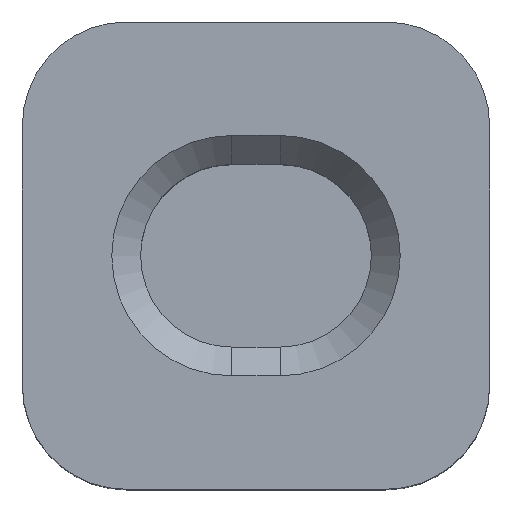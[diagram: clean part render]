
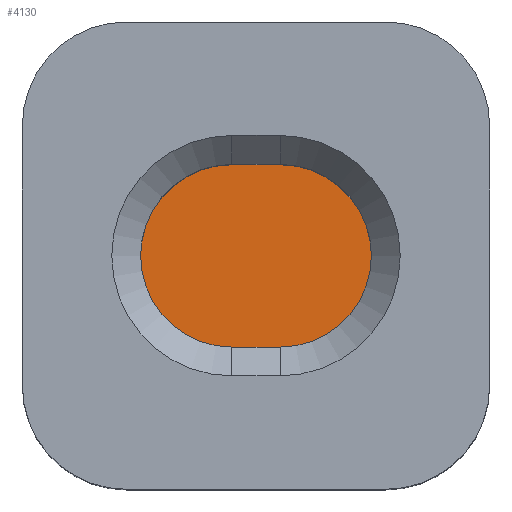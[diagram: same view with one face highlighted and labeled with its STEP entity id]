
A CAD part, top view. The second image highlights one B-rep face of the part: STEP entity #4130.
In plain terms, the highlighted planar face has unit normal (0, 0, 1).
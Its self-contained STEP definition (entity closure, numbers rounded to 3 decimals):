
#2394 = CYLINDRICAL_SURFACE('',#2395,1.9);
#2395 = AXIS2_PLACEMENT_3D('',#2396,#2397,#2398);
#2396 = CARTESIAN_POINT('',(16.,-10.2,283.693));
#2397 = DIRECTION('',(0.,0.,-1.));
#2398 = DIRECTION('',(-1.,0.,0.));
#2467 = PLANE('',#2468);
#2468 = AXIS2_PLACEMENT_3D('',#2469,#2470,#2471);
#2469 = CARTESIAN_POINT('',(16.5,-12.1,283.693));
#2470 = DIRECTION('',(0.,1.,0.));
#2471 = DIRECTION('',(0.,-0.,1.));
#2501 = CYLINDRICAL_SURFACE('',#2502,1.9);
#2502 = AXIS2_PLACEMENT_3D('',#2503,#2504,#2505);
#2503 = CARTESIAN_POINT('',(17.,-10.2,283.693));
#2504 = DIRECTION('',(0.,0.,-1.));
#2505 = DIRECTION('',(-1.,0.,0.));
#2554 = PLANE('',#2555);
#2555 = AXIS2_PLACEMENT_3D('',#2556,#2557,#2558);
#2556 = CARTESIAN_POINT('',(16.5,-8.3,283.693));
#2557 = DIRECTION('',(0.,1.,0.));
#2558 = DIRECTION('',(0.,-0.,1.));
#3875 = EDGE_CURVE('',#3876,#3878,#3880,.T.);
#3876 = VERTEX_POINT('',#3877);
#3877 = CARTESIAN_POINT('',(16.,-12.1,14.3));
#3878 = VERTEX_POINT('',#3879);
#3879 = CARTESIAN_POINT('',(16.,-8.3,14.3));
#3880 = SURFACE_CURVE('',#3881,(#3886,#3893),.PCURVE_S1.);
#3881 = CIRCLE('',#3882,1.9);
#3882 = AXIS2_PLACEMENT_3D('',#3883,#3884,#3885);
#3883 = CARTESIAN_POINT('',(16.,-10.2,14.3));
#3884 = DIRECTION('',(0.,0.,-1.));
#3885 = DIRECTION('',(-1.,0.,0.));
#3886 = PCURVE('',#2394,#3887);
#3887 = DEFINITIONAL_REPRESENTATION('',(#3888),#3892);
#3888 = LINE('',#3889,#3890);
#3889 = CARTESIAN_POINT('',(0.,269.393));
#3890 = VECTOR('',#3891,1.);
#3891 = DIRECTION('',(1.,0.));
#3892 = ( GEOMETRIC_REPRESENTATION_CONTEXT(2) 
PARAMETRIC_REPRESENTATION_CONTEXT() REPRESENTATION_CONTEXT('2D SPACE',''
  ) );
#3893 = PCURVE('',#3894,#3899);
#3894 = PLANE('',#3895);
#3895 = AXIS2_PLACEMENT_3D('',#3896,#3897,#3898);
#3896 = CARTESIAN_POINT('',(1.25,-10.,14.3));
#3897 = DIRECTION('',(0.,0.,-1.));
#3898 = DIRECTION('',(1.,0.,0.));
#3899 = DEFINITIONAL_REPRESENTATION('',(#3900),#3904);
#3900 = CIRCLE('',#3901,1.9);
#3901 = AXIS2_PLACEMENT_2D('',#3902,#3903);
#3902 = CARTESIAN_POINT('',(14.75,0.2));
#3903 = DIRECTION('',(-1.,0.));
#3904 = ( GEOMETRIC_REPRESENTATION_CONTEXT(2) 
PARAMETRIC_REPRESENTATION_CONTEXT() REPRESENTATION_CONTEXT('2D SPACE',''
  ) );
#3955 = VERTEX_POINT('',#3956);
#3956 = CARTESIAN_POINT('',(17.,-12.1,14.3));
#3977 = EDGE_CURVE('',#3955,#3876,#3978,.T.);
#3978 = SURFACE_CURVE('',#3979,(#3983,#3990),.PCURVE_S1.);
#3979 = LINE('',#3980,#3981);
#3980 = CARTESIAN_POINT('',(16.5,-12.1,14.3));
#3981 = VECTOR('',#3982,1.);
#3982 = DIRECTION('',(-1.,0.,0.));
#3983 = PCURVE('',#2467,#3984);
#3984 = DEFINITIONAL_REPRESENTATION('',(#3985),#3989);
#3985 = LINE('',#3986,#3987);
#3986 = CARTESIAN_POINT('',(-269.393,0.));
#3987 = VECTOR('',#3988,1.);
#3988 = DIRECTION('',(0.,-1.));
#3989 = ( GEOMETRIC_REPRESENTATION_CONTEXT(2) 
PARAMETRIC_REPRESENTATION_CONTEXT() REPRESENTATION_CONTEXT('2D SPACE',''
  ) );
#3990 = PCURVE('',#3894,#3991);
#3991 = DEFINITIONAL_REPRESENTATION('',(#3992),#3996);
#3992 = LINE('',#3993,#3994);
#3993 = CARTESIAN_POINT('',(15.25,2.1));
#3994 = VECTOR('',#3995,1.);
#3995 = DIRECTION('',(-1.,0.));
#3996 = ( GEOMETRIC_REPRESENTATION_CONTEXT(2) 
PARAMETRIC_REPRESENTATION_CONTEXT() REPRESENTATION_CONTEXT('2D SPACE',''
  ) );
#4001 = EDGE_CURVE('',#4002,#3955,#4004,.T.);
#4002 = VERTEX_POINT('',#4003);
#4003 = CARTESIAN_POINT('',(17.,-8.3,14.3));
#4004 = SURFACE_CURVE('',#4005,(#4010,#4017),.PCURVE_S1.);
#4005 = CIRCLE('',#4006,1.9);
#4006 = AXIS2_PLACEMENT_3D('',#4007,#4008,#4009);
#4007 = CARTESIAN_POINT('',(17.,-10.2,14.3));
#4008 = DIRECTION('',(0.,0.,-1.));
#4009 = DIRECTION('',(-1.,0.,0.));
#4010 = PCURVE('',#2501,#4011);
#4011 = DEFINITIONAL_REPRESENTATION('',(#4012),#4016);
#4012 = LINE('',#4013,#4014);
#4013 = CARTESIAN_POINT('',(0.,269.393));
#4014 = VECTOR('',#4015,1.);
#4015 = DIRECTION('',(1.,0.));
#4016 = ( GEOMETRIC_REPRESENTATION_CONTEXT(2) 
PARAMETRIC_REPRESENTATION_CONTEXT() REPRESENTATION_CONTEXT('2D SPACE',''
  ) );
#4017 = PCURVE('',#3894,#4018);
#4018 = DEFINITIONAL_REPRESENTATION('',(#4019),#4023);
#4019 = CIRCLE('',#4020,1.9);
#4020 = AXIS2_PLACEMENT_2D('',#4021,#4022);
#4021 = CARTESIAN_POINT('',(15.75,0.2));
#4022 = DIRECTION('',(-1.,0.));
#4023 = ( GEOMETRIC_REPRESENTATION_CONTEXT(2) 
PARAMETRIC_REPRESENTATION_CONTEXT() REPRESENTATION_CONTEXT('2D SPACE',''
  ) );
#4054 = EDGE_CURVE('',#4002,#3878,#4055,.T.);
#4055 = SURFACE_CURVE('',#4056,(#4060,#4067),.PCURVE_S1.);
#4056 = LINE('',#4057,#4058);
#4057 = CARTESIAN_POINT('',(16.5,-8.3,14.3));
#4058 = VECTOR('',#4059,1.);
#4059 = DIRECTION('',(-1.,0.,0.));
#4060 = PCURVE('',#2554,#4061);
#4061 = DEFINITIONAL_REPRESENTATION('',(#4062),#4066);
#4062 = LINE('',#4063,#4064);
#4063 = CARTESIAN_POINT('',(-269.393,0.));
#4064 = VECTOR('',#4065,1.);
#4065 = DIRECTION('',(0.,-1.));
#4066 = ( GEOMETRIC_REPRESENTATION_CONTEXT(2) 
PARAMETRIC_REPRESENTATION_CONTEXT() REPRESENTATION_CONTEXT('2D SPACE',''
  ) );
#4067 = PCURVE('',#3894,#4068);
#4068 = DEFINITIONAL_REPRESENTATION('',(#4069),#4073);
#4069 = LINE('',#4070,#4071);
#4070 = CARTESIAN_POINT('',(15.25,-1.7));
#4071 = VECTOR('',#4072,1.);
#4072 = DIRECTION('',(-1.,0.));
#4073 = ( GEOMETRIC_REPRESENTATION_CONTEXT(2) 
PARAMETRIC_REPRESENTATION_CONTEXT() REPRESENTATION_CONTEXT('2D SPACE',''
  ) );
#4130 = ADVANCED_FACE('',(#4131),#3894,.F.);
#4131 = FACE_BOUND('',#4132,.T.);
#4132 = EDGE_LOOP('',(#4133,#4134,#4135,#4136));
#4133 = ORIENTED_EDGE('',*,*,#4001,.F.);
#4134 = ORIENTED_EDGE('',*,*,#4054,.T.);
#4135 = ORIENTED_EDGE('',*,*,#3875,.F.);
#4136 = ORIENTED_EDGE('',*,*,#3977,.F.);
